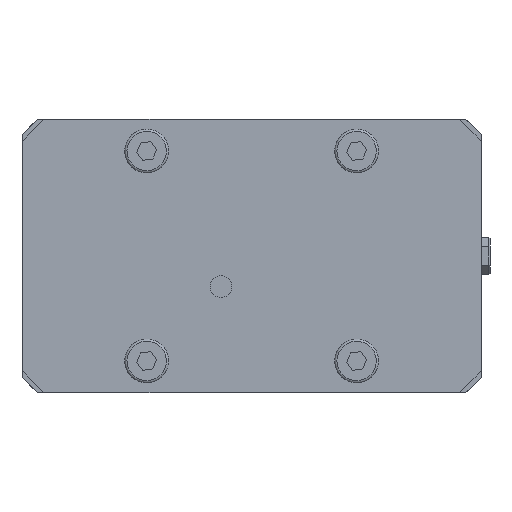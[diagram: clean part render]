
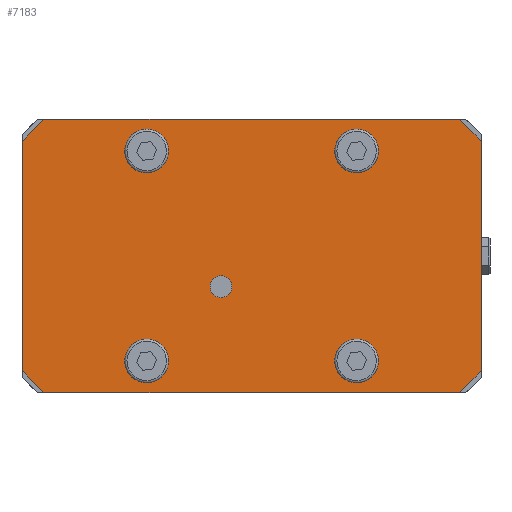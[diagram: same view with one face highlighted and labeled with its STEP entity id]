
A CAD part, front view. The second image highlights one B-rep face of the part: STEP entity #7183.
In plain terms, the highlighted planar face has unit normal (0, -1, 0).
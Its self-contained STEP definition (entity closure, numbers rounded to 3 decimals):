
#518 = EDGE_CURVE ( 'NONE', #39324, #39324, #1122, .T. ) ;
#1108 = EDGE_LOOP ( 'NONE', ( #25456, #5355, #24085, #36676, #13413, #38708, #15901, #12058 ) ) ;
#1122 = CIRCLE ( 'NONE', #28047, 8.7 ) ;
#1248 = PLANE ( 'NONE',  #31343 ) ;
#1298 = VECTOR ( 'NONE', #25041, 1000. ) ;
#1376 = AXIS2_PLACEMENT_3D ( 'NONE', #27016, #37878, #41746 ) ;
#1703 = CIRCLE ( 'NONE', #4775, 8.7 ) ;
#2289 = DIRECTION ( 'NONE',  ( 0., 1., 0. ) ) ;
#2602 = EDGE_CURVE ( 'NONE', #32351, #32351, #1703, .T. ) ;
#3268 = VERTEX_POINT ( 'NONE', #28821 ) ;
#3594 = DIRECTION ( 'NONE',  ( 0., 0., 1. ) ) ;
#4397 = LINE ( 'NONE', #44909, #44611 ) ;
#4402 = CIRCLE ( 'NONE', #1376, 5. ) ;
#4698 = VECTOR ( 'NONE', #40983, 1000. ) ;
#4775 = AXIS2_PLACEMENT_3D ( 'NONE', #5041, #41265, #8428 ) ;
#5041 = CARTESIAN_POINT ( 'NONE',  ( 48., 0., -48. ) ) ;
#5355 = ORIENTED_EDGE ( 'NONE', *, *, #20358, .T. ) ;
#6004 = CIRCLE ( 'NONE', #46098, 8.7 ) ;
#6137 = CARTESIAN_POINT ( 'NONE',  ( -95., 0., 62.5 ) ) ;
#7022 = CARTESIAN_POINT ( 'NONE',  ( 105., 0., -62.5 ) ) ;
#7183 = ADVANCED_FACE ( 'NONE', ( #19542, #34273, #37641, #8900, #23620, #22924 ), #1248, .F. ) ;
#7476 = LINE ( 'NONE', #29688, #28293 ) ;
#7629 = VERTEX_POINT ( 'NONE', #6137 ) ;
#8207 = CARTESIAN_POINT ( 'NONE',  ( 105., 0., -62.5 ) ) ;
#8428 = DIRECTION ( 'NONE',  ( 0., 0., 1. ) ) ;
#8636 = CARTESIAN_POINT ( 'NONE',  ( 95., 0., -62.5 ) ) ;
#8745 = EDGE_CURVE ( 'NONE', #26137, #42857, #47725, .T. ) ;
#8900 = FACE_BOUND ( 'NONE', #29206, .T. ) ;
#9462 = CARTESIAN_POINT ( 'NONE',  ( 48., 0., 48. ) ) ;
#10169 = LINE ( 'NONE', #17682, #23767 ) ;
#10885 = ORIENTED_EDGE ( 'NONE', *, *, #518, .T. ) ;
#11504 = CARTESIAN_POINT ( 'NONE',  ( 105., 0., -52.5 ) ) ;
#12051 = DIRECTION ( 'NONE',  ( 0., 1., 0. ) ) ;
#12058 = ORIENTED_EDGE ( 'NONE', *, *, #43788, .T. ) ;
#12586 = EDGE_CURVE ( 'NONE', #43509, #42857, #20516, .T. ) ;
#13413 = ORIENTED_EDGE ( 'NONE', *, *, #16038, .F. ) ;
#13712 = CARTESIAN_POINT ( 'NONE',  ( 105., 0., 52.5 ) ) ;
#13742 = CARTESIAN_POINT ( 'NONE',  ( 48., 0., -39.3 ) ) ;
#14512 = LINE ( 'NONE', #7022, #17868 ) ;
#15239 = DIRECTION ( 'NONE',  ( 0., 1., 0. ) ) ;
#15606 = CARTESIAN_POINT ( 'NONE',  ( -95., 0., -62.5 ) ) ;
#15685 = DIRECTION ( 'NONE',  ( 0., 0., 1. ) ) ;
#15695 = VECTOR ( 'NONE', #22849, 1000. ) ;
#15901 = ORIENTED_EDGE ( 'NONE', *, *, #12586, .F. ) ;
#15977 = VERTEX_POINT ( 'NONE', #38428 ) ;
#16038 = EDGE_CURVE ( 'NONE', #26137, #24634, #14512, .T. ) ;
#16304 = LINE ( 'NONE', #15606, #15695 ) ;
#16750 = ORIENTED_EDGE ( 'NONE', *, *, #17809, .T. ) ;
#17043 = ORIENTED_EDGE ( 'NONE', *, *, #2602, .T. ) ;
#17682 = CARTESIAN_POINT ( 'NONE',  ( 105., 0., 62.5 ) ) ;
#17809 = EDGE_CURVE ( 'NONE', #29897, #29897, #33619, .T. ) ;
#17868 = VECTOR ( 'NONE', #35756, 1000. ) ;
#18429 = EDGE_CURVE ( 'NONE', #44865, #15977, #7476, .T. ) ;
#18917 = VECTOR ( 'NONE', #46835, 1000. ) ;
#18969 = AXIS2_PLACEMENT_3D ( 'NONE', #43251, #2289, #35775 ) ;
#19542 = FACE_BOUND ( 'NONE', #32572, .T. ) ;
#20358 = EDGE_CURVE ( 'NONE', #7629, #44865, #4397, .T. ) ;
#20516 = LINE ( 'NONE', #35269, #18917 ) ;
#21065 = ORIENTED_EDGE ( 'NONE', *, *, #30622, .F. ) ;
#22849 = DIRECTION ( 'NONE',  ( 0.707, 0., -0.707 ) ) ;
#22924 = FACE_OUTER_BOUND ( 'NONE', #1108, .T. ) ;
#23620 = FACE_BOUND ( 'NONE', #24867, .T. ) ;
#23767 = VECTOR ( 'NONE', #35999, 1000. ) ;
#24085 = ORIENTED_EDGE ( 'NONE', *, *, #18429, .T. ) ;
#24634 = VERTEX_POINT ( 'NONE', #42245 ) ;
#24867 = EDGE_LOOP ( 'NONE', ( #21065 ) ) ;
#25041 = DIRECTION ( 'NONE',  ( -0.707, 0., 0.707 ) ) ;
#25097 = CARTESIAN_POINT ( 'NONE',  ( 105., 0., 52.5 ) ) ;
#25456 = ORIENTED_EDGE ( 'NONE', *, *, #31728, .T. ) ;
#26137 = VERTEX_POINT ( 'NONE', #8636 ) ;
#26900 = EDGE_CURVE ( 'NONE', #15977, #24634, #16304, .T. ) ;
#27016 = CARTESIAN_POINT ( 'NONE',  ( -14., 0., -14. ) ) ;
#28047 = AXIS2_PLACEMENT_3D ( 'NONE', #9462, #15239, #47339 ) ;
#28293 = VECTOR ( 'NONE', #39823, 1000. ) ;
#28821 = CARTESIAN_POINT ( 'NONE',  ( -48., 0., -39.3 ) ) ;
#28968 = EDGE_LOOP ( 'NONE', ( #10885 ) ) ;
#29206 = EDGE_LOOP ( 'NONE', ( #16750 ) ) ;
#29688 = CARTESIAN_POINT ( 'NONE',  ( -105., 0., -62.5 ) ) ;
#29897 = VERTEX_POINT ( 'NONE', #44608 ) ;
#30622 = EDGE_CURVE ( 'NONE', #38984, #38984, #4402, .T. ) ;
#31038 = ORIENTED_EDGE ( 'NONE', *, *, #36633, .T. ) ;
#31343 = AXIS2_PLACEMENT_3D ( 'NONE', #8207, #12051, #15685 ) ;
#31385 = CARTESIAN_POINT ( 'NONE',  ( -105., 0., 52.5 ) ) ;
#31728 = EDGE_CURVE ( 'NONE', #45503, #7629, #10169, .T. ) ;
#32351 = VERTEX_POINT ( 'NONE', #13742 ) ;
#32489 = CARTESIAN_POINT ( 'NONE',  ( 95., 0., 62.5 ) ) ;
#32572 = EDGE_LOOP ( 'NONE', ( #17043 ) ) ;
#32862 = EDGE_LOOP ( 'NONE', ( #31038 ) ) ;
#33619 = CIRCLE ( 'NONE', #18969, 8.7 ) ;
#33999 = CARTESIAN_POINT ( 'NONE',  ( -14., 0., -19. ) ) ;
#34273 = FACE_BOUND ( 'NONE', #32862, .T. ) ;
#34305 = DIRECTION ( 'NONE',  ( -0.707, 0., -0.707 ) ) ;
#35269 = CARTESIAN_POINT ( 'NONE',  ( 105., 0., -62.5 ) ) ;
#35675 = LINE ( 'NONE', #13712, #1298 ) ;
#35756 = DIRECTION ( 'NONE',  ( -1., 0., 0. ) ) ;
#35775 = DIRECTION ( 'NONE',  ( 0., 0., 1. ) ) ;
#35999 = DIRECTION ( 'NONE',  ( -1., 0., 0. ) ) ;
#36615 = CARTESIAN_POINT ( 'NONE',  ( -48., 0., -48. ) ) ;
#36633 = EDGE_CURVE ( 'NONE', #3268, #3268, #6004, .T. ) ;
#36676 = ORIENTED_EDGE ( 'NONE', *, *, #26900, .T. ) ;
#37641 = FACE_BOUND ( 'NONE', #28968, .T. ) ;
#37878 = DIRECTION ( 'NONE',  ( 0., -1., 0. ) ) ;
#38428 = CARTESIAN_POINT ( 'NONE',  ( -105., 0., -52.5 ) ) ;
#38708 = ORIENTED_EDGE ( 'NONE', *, *, #8745, .T. ) ;
#38984 = VERTEX_POINT ( 'NONE', #33999 ) ;
#39324 = VERTEX_POINT ( 'NONE', #47283 ) ;
#39823 = DIRECTION ( 'NONE',  ( 0., 0., -1. ) ) ;
#40983 = DIRECTION ( 'NONE',  ( 0.707, 0., 0.707 ) ) ;
#41265 = DIRECTION ( 'NONE',  ( 0., 1., 0. ) ) ;
#41746 = DIRECTION ( 'NONE',  ( 0., 0., -1. ) ) ;
#42245 = CARTESIAN_POINT ( 'NONE',  ( -95., 0., -62.5 ) ) ;
#42857 = VERTEX_POINT ( 'NONE', #46827 ) ;
#43251 = CARTESIAN_POINT ( 'NONE',  ( -48., 0., 48. ) ) ;
#43509 = VERTEX_POINT ( 'NONE', #25097 ) ;
#43788 = EDGE_CURVE ( 'NONE', #43509, #45503, #35675, .T. ) ;
#44097 = DIRECTION ( 'NONE',  ( 0., 1., 0. ) ) ;
#44608 = CARTESIAN_POINT ( 'NONE',  ( -48., 0., 56.7 ) ) ;
#44611 = VECTOR ( 'NONE', #34305, 1000. ) ;
#44865 = VERTEX_POINT ( 'NONE', #31385 ) ;
#44909 = CARTESIAN_POINT ( 'NONE',  ( -95., 0., 62.5 ) ) ;
#45503 = VERTEX_POINT ( 'NONE', #32489 ) ;
#46098 = AXIS2_PLACEMENT_3D ( 'NONE', #36615, #44097, #3594 ) ;
#46827 = CARTESIAN_POINT ( 'NONE',  ( 105., 0., -52.5 ) ) ;
#46835 = DIRECTION ( 'NONE',  ( 0., 0., -1. ) ) ;
#47283 = CARTESIAN_POINT ( 'NONE',  ( 48., 0., 56.7 ) ) ;
#47339 = DIRECTION ( 'NONE',  ( 0., 0., 1. ) ) ;
#47725 = LINE ( 'NONE', #11504, #4698 ) ;
